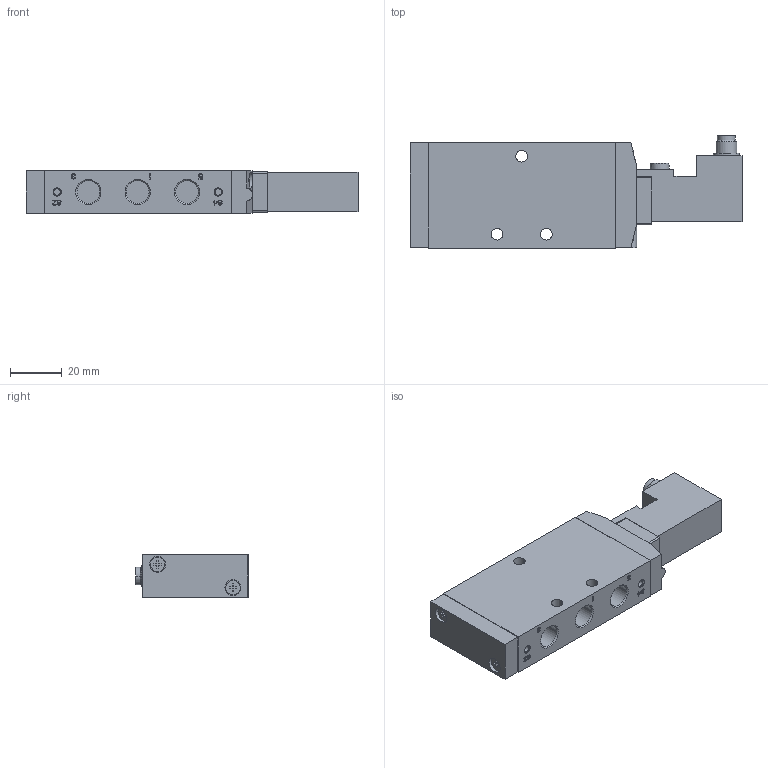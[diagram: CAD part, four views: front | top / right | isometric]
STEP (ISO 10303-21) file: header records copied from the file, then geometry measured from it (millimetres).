
FILE_DESCRIPTION((''),'2;1');
FILE_NAME('R422100968','2018-11-20T',('vol1hc'),(''),'CREO PARAMETRIC BY PTC INC, 2016260','CREO PARAMETRIC BY PTC INC, 2016260','');
FILE_SCHEMA(('CONFIG_CONTROL_DESIGN'));
Length unit declared in the file: millimetre
Products named in the file (1): R422100968
Bounding box: 127.8 x 43.3 x 16.8 mm (x, y, z)
Volume: 67490.3 mm3; surface area: 18515.2 mm2
Topology: 1 solids, 1 shells, 604 faces, 1629 edges, 1078 vertices
Faces by surface type: plane 519, cylinder 65, cone 20
Entity records: 18774 total; most frequent: CARTESIAN_POINT 3385, ORIENTED_EDGE 3258, DIRECTION 2981, EDGE_CURVE 1629, VECTOR 1469, LINE 1469, VERTEX_POINT 1078, AXIS2_PLACEMENT_3D 756
